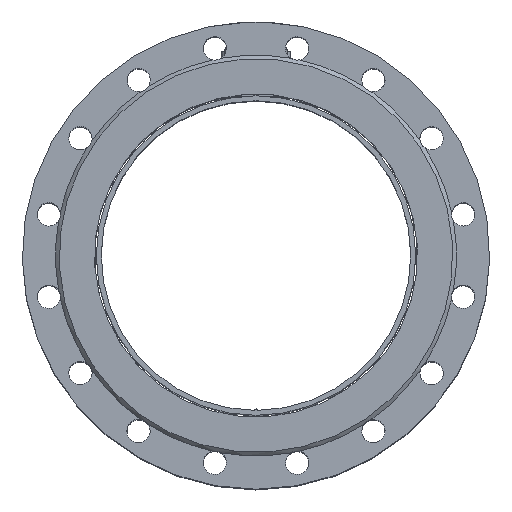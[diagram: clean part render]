
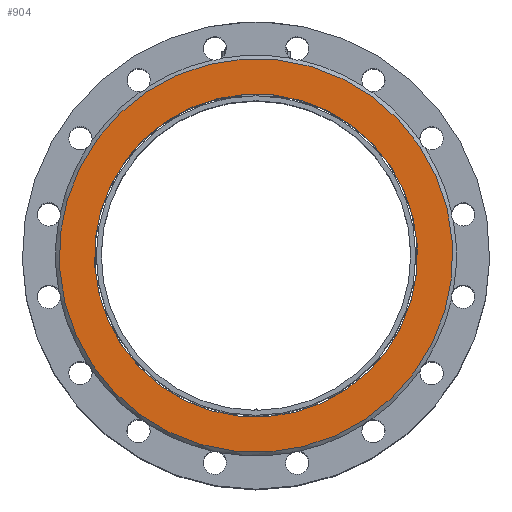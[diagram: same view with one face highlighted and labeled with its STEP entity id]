
A CAD part, top view. The second image highlights one B-rep face of the part: STEP entity #904.
In plain terms, the highlighted planar face has unit normal (0, 0, 1).
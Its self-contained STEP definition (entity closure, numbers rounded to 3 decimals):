
#904 = ADVANCED_FACE( '', ( #1809, #1810 ), #1811, .F. );
#1809 = FACE_OUTER_BOUND( '', #5208, .T. );
#1810 = FACE_BOUND( '', #5209, .T. );
#1811 = PLANE( '', #5210 );
#5208 = EDGE_LOOP( '', ( #7867 ) );
#5209 = EDGE_LOOP( '', ( #7868 ) );
#5210 = AXIS2_PLACEMENT_3D( '', #7869, #7870, #7871 );
#7867 = ORIENTED_EDGE( '', *, *, #9713, .F. );
#7868 = ORIENTED_EDGE( '', *, *, #9714, .T. );
#7869 = CARTESIAN_POINT( '', ( 0., -179.75, 35. ) );
#7870 = DIRECTION( '', ( 0., 0., -1. ) );
#7871 = DIRECTION( '', ( -1., 0., 0. ) );
#9713 = EDGE_CURVE( '', #11219, #11219, #11220, .T. );
#9714 = EDGE_CURVE( '', #11221, #11221, #11222, .T. );
#11219 = VERTEX_POINT( '', #16168 );
#11220 = CIRCLE( '', #16169, 219. );
#11221 = VERTEX_POINT( '', #16170 );
#11222 = CIRCLE( '', #16171, 179.75 );
#16168 = CARTESIAN_POINT( '', ( -219., 0., 35. ) );
#16169 = AXIS2_PLACEMENT_3D( '', #17941, #17942, #17943 );
#16170 = CARTESIAN_POINT( '', ( -179.75, 0., 35. ) );
#16171 = AXIS2_PLACEMENT_3D( '', #17944, #17945, #17946 );
#17941 = CARTESIAN_POINT( '', ( 0., 0., 35. ) );
#17942 = DIRECTION( '', ( 0., 0., -1. ) );
#17943 = DIRECTION( '', ( -1., 0., 0. ) );
#17944 = CARTESIAN_POINT( '', ( 0., 0., 35. ) );
#17945 = DIRECTION( '', ( 0., 0., -1. ) );
#17946 = DIRECTION( '', ( -1., 0., 0. ) );
